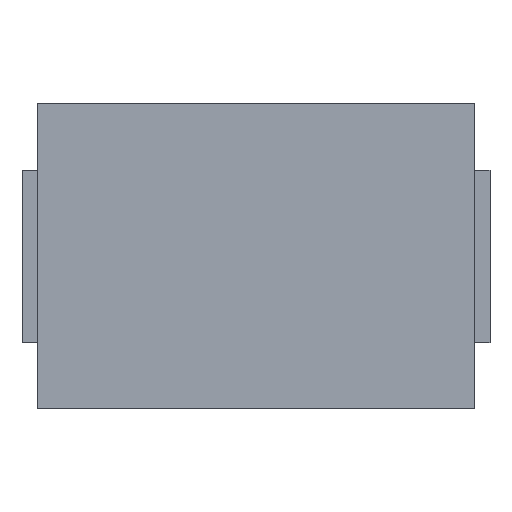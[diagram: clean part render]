
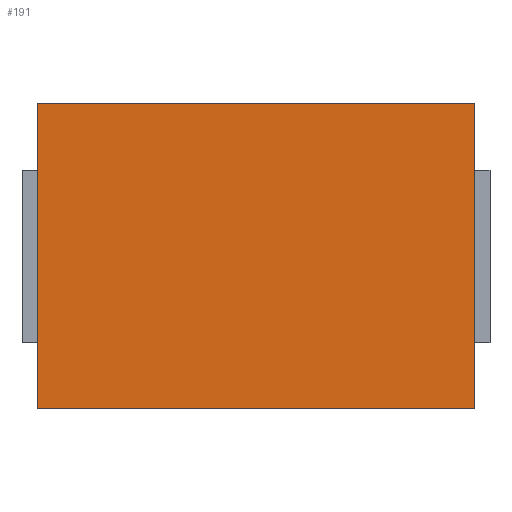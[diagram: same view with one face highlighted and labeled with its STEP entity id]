
A CAD part, top view. The second image highlights one B-rep face of the part: STEP entity #191.
In plain terms, the highlighted planar face has unit normal (0, 0, 1).
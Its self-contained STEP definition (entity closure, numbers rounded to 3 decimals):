
#191=ADVANCED_FACE('',(#197),#192,.T.);
#192=PLANE('',#193);
#193=AXIS2_PLACEMENT_3D('',#194,#195,#196);
#194=CARTESIAN_POINT('',(-2.292,-1.6,3.2));
#195=DIRECTION('',(0.0,0.0,1.0));
#196=DIRECTION('',(0.,1.,0.));
#197=FACE_OUTER_BOUND('',#198,.T.);
#198=EDGE_LOOP('',(#199,#209,#219,#229));
#202=CARTESIAN_POINT('',(2.292,-1.6,3.2));
#201=VERTEX_POINT('',#202);
#204=CARTESIAN_POINT('',(-2.292,-1.6,3.2));
#203=VERTEX_POINT('',#204);
#200=EDGE_CURVE('',#201,#203,#205,.T.);
#205=LINE('',#202,#207);
#207=VECTOR('',#208,4.585);
#208=DIRECTION('',(-1.0,0.0,0.0));
#199=ORIENTED_EDGE('',*,*,#200,.F.);
#212=CARTESIAN_POINT('',(2.292,1.6,3.2));
#211=VERTEX_POINT('',#212);
#210=EDGE_CURVE('',#211,#201,#215,.T.);
#215=LINE('',#212,#217);
#217=VECTOR('',#218,3.2);
#218=DIRECTION('',(0.0,-1.0,0.0));
#209=ORIENTED_EDGE('',*,*,#210,.F.);
#222=CARTESIAN_POINT('',(-2.292,1.6,3.2));
#221=VERTEX_POINT('',#222);
#220=EDGE_CURVE('',#221,#211,#225,.T.);
#225=LINE('',#222,#227);
#227=VECTOR('',#228,4.585);
#228=DIRECTION('',(1.0,0.0,0.0));
#219=ORIENTED_EDGE('',*,*,#220,.F.);
#230=EDGE_CURVE('',#203,#221,#235,.T.);
#235=LINE('',#204,#237);
#237=VECTOR('',#238,3.2);
#238=DIRECTION('',(0.0,1.0,0.0));
#229=ORIENTED_EDGE('',*,*,#230,.F.);
